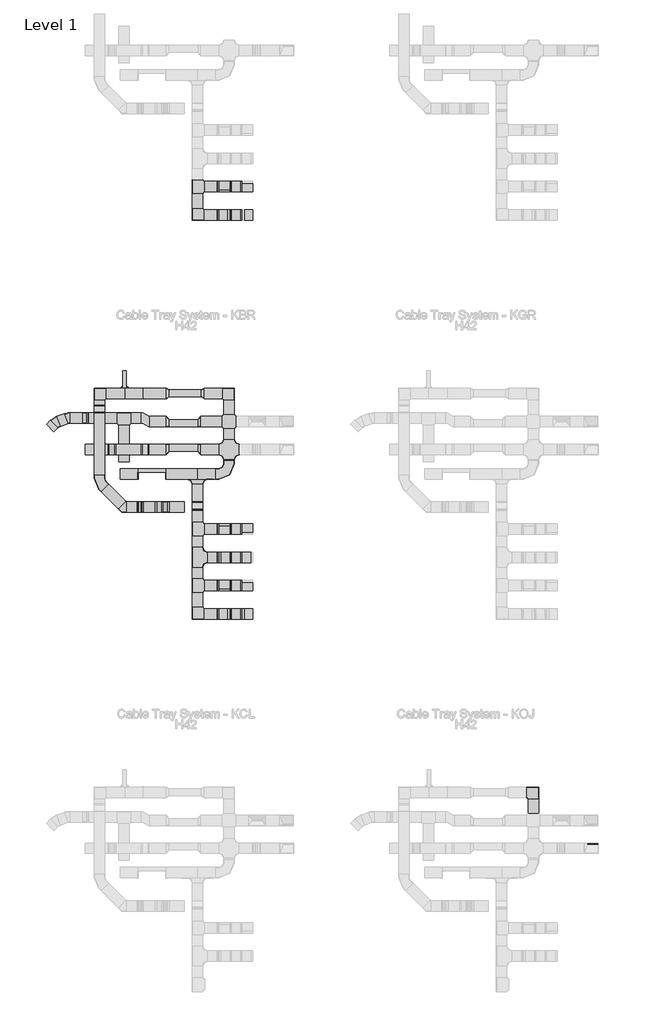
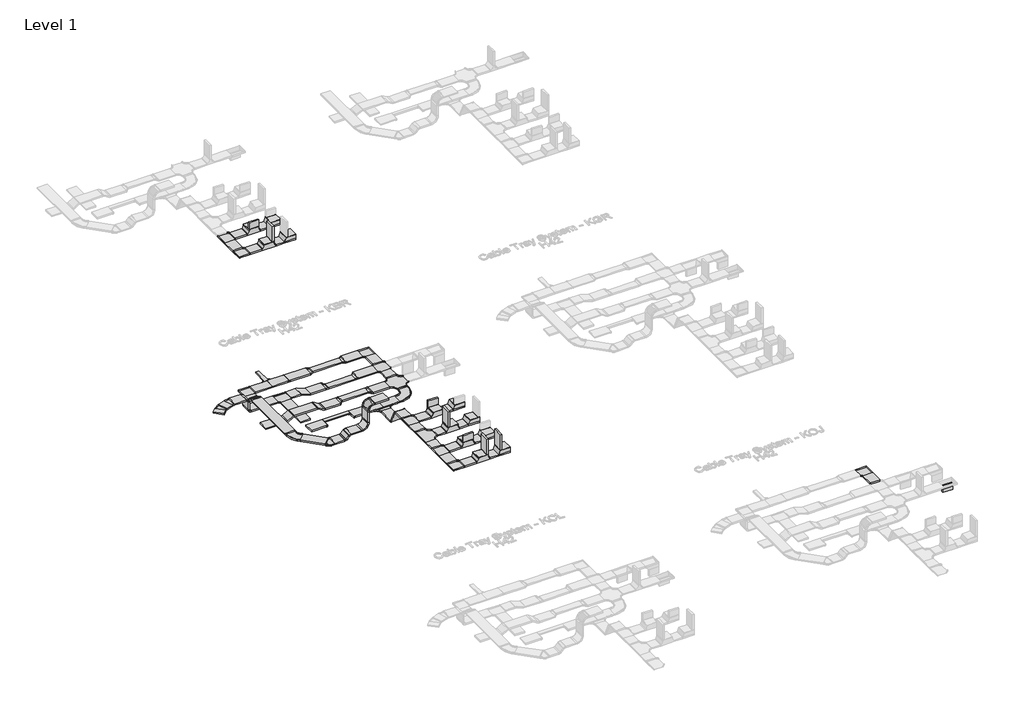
# One storey, part 4 of 106: 64 cable carrier segments, 53 cable carrier fittings.
"""IFC4 building model written with IfcOpenShell, lengths in millimetres."""

from ifc_helpers import new_model, si_unit, frame, origin, place, context, project, spatial, polyline, outline, extrude, transform, mapped, element, save
from components import cable_carrier_fitting_e5c8e40d, cable_carrier_fitting_89415aa4, cable_carrier_fitting_efa56db2, cable_carrier_fitting_91cb0ece, cable_carrier_fitting_fd90c8b5, cable_carrier_fitting_9cc64f74, cable_carrier_fitting_881c8fdb, cable_carrier_fitting_302010ec, cable_carrier_fitting_bee8c25e, cable_carrier_fitting_2b67af39, cable_carrier_fitting_af289c29, cable_carrier_fitting_3ff81d9b, cable_carrier_fitting_7d5806c9, cable_carrier_fitting_0ce080ce, cable_carrier_fitting_1724e2f5, cable_carrier_fitting_0e05e12f, cable_carrier_fitting_aa4403b1, cable_carrier_fitting_df0feb0d, cable_carrier_fitting_19ef2403, cable_carrier_fitting_0fee3a18, cable_carrier_fitting_e93d4d17, cable_carrier_fitting_f62230c1, cable_carrier_fitting_68112528, cable_carrier_fitting_3c0e6721, cable_carrier_fitting_94ef316f, cable_carrier_fitting_d4aa8912, cable_carrier_fitting_70c157f5, cable_carrier_fitting_f138ef00, cable_carrier_fitting_b296faec, cable_carrier_fitting_717dd42d, cable_carrier_fitting_55953e98, cable_carrier_fitting_c1d9b0e5, rkj200_h42_1d64d163, rkj200_h42_0f858a6a

model = new_model("IFC4")

# Units and contexts
model_context = context("Model", 3, world=origin())
ifc_project = project(units=[si_unit("LENGTHUNIT", "METRE", prefix="MILLI")], contexts=[model_context])

# Site, building, storey
site = spatial("IfcSite", under=ifc_project)
building = spatial("IfcBuilding", under=site)
storey = spatial("IfcBuildingStorey", under=building, Name="Level 1", Elevation=0.0)

# Cable carrier fittings
placement = place(None, origin())
cable_carrier_fitting_shape = cable_carrier_fitting_e5c8e40d(model_context)
element("IfcCableCarrierFitting", 1, ObjectType="BAKS_SUB_Corner connector : LRJ_H42", at=placement, inside=storey, context=model_context, shape_type="MappedRepresentation", body=[
    mapped(cable_carrier_fitting_shape, transform((-19375.1670538, 58130.8714214, -21.0), x_axis=(-1.0, 0.0, 0.0), y_axis=(0.0, -1.0, 0.0), z_axis=(0.0, 0.0, 1.0))),
])
element("IfcCableCarrierFitting", 2, ObjectType="BAKS_SUB_Corner connector : LRJ_H42", at=placement, inside=storey, context=model_context, shape_type="MappedRepresentation", body=[
    mapped(cable_carrier_fitting_shape, transform((-19275.1670538, 58130.8714214, -21.0), x_axis=(0.0, 1.0, 0.0), y_axis=(-1.0, 0.0, 0.0), z_axis=(0.0, 0.0, 1.0))),
])
cable_carrier_fitting_2_shape = cable_carrier_fitting_89415aa4(model_context)
element("IfcCableCarrierFitting", 3, ObjectType="BAKS_Horizontal bend : KKBL/KKMBL_H42", at=placement, inside=storey, context=model_context, shape_type="MappedRepresentation", body=[
    mapped(cable_carrier_fitting_2_shape, transform((-19343.6670538, 54731.3714214, 100.0), x_axis=(0.7071067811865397, -0.7071067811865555, 0.0), y_axis=(0.7071067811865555, 0.7071067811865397, 0.0), z_axis=(0.0, 0.0, 1.0))),
])
cable_carrier_fitting_3_shape = cable_carrier_fitting_efa56db2(model_context)
element("IfcCableCarrierFitting", 4, ObjectType="BAKS_Horizontal bypass : OPZNJ_H42", at=placement, inside=storey, context=model_context, shape_type="MappedRepresentation", body=[
    mapped(cable_carrier_fitting_3_shape, transform((-18722.1670538, 57180.8714214, 0.0), x_axis=(-1.0, 0.0, 0.0), y_axis=(0.0, 1.0, 0.0), z_axis=(0.0, 0.0, -1.0))),
])
cable_carrier_fitting_4_shape = cable_carrier_fitting_91cb0ece(model_context)
element("IfcCableCarrierFitting", 5, ObjectType="BAKS_Horizontal cross over : CZKL_H42", at=placement, inside=storey, context=model_context, shape_type="MappedRepresentation", body=[
    mapped(cable_carrier_fitting_4_shape, transform((-16343.1670538, 57180.8714214, 0.0), x_axis=(0.0, -1.0, 0.0), y_axis=(1.0, 0.0, 0.0), z_axis=(0.0, 0.0, 1.0))),
])
cable_carrier_fitting_5_shape = cable_carrier_fitting_fd90c8b5(model_context)
element("IfcCableCarrierFitting", 6, ObjectType="BAKS_Horizontal tee radius : TKPJ_H42", at=placement, inside=storey, context=model_context, shape_type="MappedRepresentation", body=[
    mapped(cable_carrier_fitting_5_shape, transform((-17246.1670538, 53296.5802898, 432.5277378), x_axis=(0.0, 1.0, 0.0), y_axis=(-1.0, 0.0, 0.0), z_axis=(0.0, 0.0, 1.0))),
])
cable_carrier_fitting_6_shape = cable_carrier_fitting_9cc64f74(model_context)
element("IfcCableCarrierFitting", 7, ObjectType="BAKS_Horizontal tee : TKL_H42", at=placement, inside=storey, context=model_context, shape_type="MappedRepresentation", body=[
    mapped(cable_carrier_fitting_6_shape, transform((-19343.6670538, 57280.8714214, 0.0), x_axis=(1.0, 0.0, 0.0), y_axis=(0.0, 1.0, 0.0), z_axis=(0.0, 0.0, 1.0))),
])
element("IfcCableCarrierFitting", 8, ObjectType="BAKS_Horizontal tee : TKL_H42", at=placement, inside=storey, context=model_context, shape_type="MappedRepresentation", body=[
    mapped(cable_carrier_fitting_6_shape, transform((-17246.1670538, 52489.2974728, 432.5277378), x_axis=(0.0, 1.0, 0.0), y_axis=(-1.0, 0.0, 0.0), z_axis=(0.0, 0.0, 1.0))),
])
element("IfcCableCarrierFitting", 9, ObjectType="BAKS_Horizontal tee : TKL_H42", at=placement, inside=storey, context=model_context, shape_type="MappedRepresentation", body=[
    mapped(cable_carrier_fitting_6_shape, transform((-17246.1670538, 54103.8631068, 432.5277378), x_axis=(0.0, 1.0, 0.0), y_axis=(-1.0, 0.0, 0.0), z_axis=(0.0, 0.0, 1.0))),
])
element("IfcCableCarrierFitting", 10, ObjectType="BAKS_Horizontal tee : TKL_H42", at=placement, inside=storey, context=model_context, shape_type="MappedRepresentation", body=[
    mapped(cable_carrier_fitting_6_shape, transform((-17246.1670538, 63889.2974728, 432.5277378), x_axis=(0.0, 1.0, 0.0), y_axis=(-1.0, 0.0, 0.0), z_axis=(0.0, 0.0, 1.0))),
])
cable_carrier_fitting_7_shape = cable_carrier_fitting_881c8fdb(model_context)
element("IfcCableCarrierFitting", 11, ObjectType="BAKS_Universal elbow : KRUMJ_H42", at=placement, inside=storey, context=model_context, shape_type="MappedRepresentation", body=[
    mapped(cable_carrier_fitting_7_shape, transform((-16006.1670538, 53296.5802898, 432.5277378), x_axis=(1.0, 0.0, 0.0), y_axis=(0.0, 1.0, 0.0), z_axis=(0.0, 0.0, 1.0))),
])
cable_carrier_fitting_8_shape = cable_carrier_fitting_302010ec(model_context)
element("IfcCableCarrierFitting", 12, ObjectType="BAKS_Universal tee : TRUNJ_H42", at=placement, inside=storey, context=model_context, shape_type="MappedRepresentation", body=[
    mapped(cable_carrier_fitting_8_shape, transform((-16473.5199976, 53296.5802898, 432.5277378), x_axis=(-1.0, 0.0, 0.0), y_axis=(0.0, -1.0, 0.0), z_axis=(0.0, 0.0, 1.0))),
])
cable_carrier_fitting_9_shape = cable_carrier_fitting_bee8c25e(model_context)
element("IfcCableCarrierFitting", 13, ObjectType="BAKS_Vertical bend adjustable : LLL/LLJ_H42", at=placement, inside=storey, context=model_context, shape_type="MappedRepresentation", body=[
    mapped(cable_carrier_fitting_9_shape, transform((-18246.2659001, 54731.3714214, 237.4011537), x_axis=(1.0, 0.0, 0.0), y_axis=(0.0, 0.0, 1.0), z_axis=(0.0, -1.0, 0.0))),
])
element("IfcCableCarrierFitting", 14, ObjectType="BAKS_Vertical bend adjustable : LLL/LLJ_H42", at=placement, inside=storey, context=model_context, shape_type="MappedRepresentation", body=[
    mapped(cable_carrier_fitting_9_shape, transform((-18246.2659001, 54731.3714214, 977.4011537), x_axis=(0.0, 0.0, 1.0), y_axis=(1.0, 0.0, 0.0), z_axis=(0.0, 1.0, 0.0))),
])
cable_carrier_fitting_10_shape = cable_carrier_fitting_2b67af39(model_context)
element("IfcCableCarrierFitting", 15, ObjectType="BAKS_Vertical bypass : OPNNJ_H42", at=placement, inside=storey, context=model_context, shape_type="MappedRepresentation", body=[
    mapped(cable_carrier_fitting_10_shape, transform((-19686.6670538, 56380.8714214, 100.0), x_axis=(-1.0, 0.0, 0.0), y_axis=(0.0, -1.0, 0.0), z_axis=(0.0, 0.0, 1.0))),
])
cable_carrier_fitting_11_shape = cable_carrier_fitting_af289c29(model_context)
element("IfcCableCarrierFitting", 16, ObjectType="BAKS_Articulated_connector : LGJ_H42", at=placement, inside=storey, context=model_context, shape_type="MappedRepresentation", body=[
    mapped(cable_carrier_fitting_11_shape, transform((-17246.1670538, 54858.7056523, 0.0), x_axis=(0.0, -1.0, 0.0), y_axis=(0.0, 0.0, 1.0), z_axis=(-1.0, 0.0, 0.0))),
])
element("IfcCableCarrierFitting", 17, ObjectType="BAKS_Articulated_connector : LGJ_H42", at=placement, inside=storey, context=model_context, shape_type="MappedRepresentation", body=[
    mapped(cable_carrier_fitting_11_shape, transform((-17246.1670538, 54657.0146558, 432.5277378), x_axis=(0.0, -0.42261826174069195, 0.9063077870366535), y_axis=(0.0, -0.9063077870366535, -0.42261826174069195), z_axis=(1.0, 0.0, 0.0))),
])
cable_carrier_fitting_12_shape = cable_carrier_fitting_3ff81d9b(model_context)
element("IfcCableCarrierFitting", 18, ObjectType="BAKS_Universal tee : TRUNJ_H42", at=placement, inside=storey, context=model_context, shape_type="MappedRepresentation", body=[
    mapped(cable_carrier_fitting_12_shape, transform((-16473.5199976, 54103.8631068, 432.5277378), x_axis=(-1.0, 0.0, 0.0), y_axis=(0.0, -1.0, 0.0), z_axis=(0.0, 0.0, 1.0))),
])
cable_carrier_fitting_13_shape = cable_carrier_fitting_7d5806c9(model_context)
element("IfcCableCarrierFitting", 19, ObjectType="BAKS_Universal tee : TRUNJ_H42", at=placement, inside=storey, context=model_context, shape_type="MappedRepresentation", body=[
    mapped(cable_carrier_fitting_13_shape, transform((-16473.5199976, 52489.2974728, 432.5277378), x_axis=(-1.0, 0.0, 0.0), y_axis=(0.0, -1.0, 0.0), z_axis=(0.0, 0.0, 1.0))),
])
element("IfcCableCarrierFitting", 20, ObjectType="BAKS_Universal tee : TRUNJ_H42", at=placement, inside=storey, context=model_context, shape_type="MappedRepresentation", body=[
    mapped(cable_carrier_fitting_13_shape, transform((-16473.5199976, 63889.2974728, 432.5277378), x_axis=(-1.0, 0.0, 0.0), y_axis=(0.0, -1.0, 0.0), z_axis=(0.0, 0.0, 1.0))),
])
cable_carrier_fitting_14_shape = cable_carrier_fitting_0ce080ce(model_context)
element("IfcCableCarrierFitting", 21, ObjectType="BAKS_Universal tee : TRUNJ_H42", at=placement, inside=storey, context=model_context, shape_type="MappedRepresentation", body=[
    mapped(cable_carrier_fitting_14_shape, transform((-16473.5199976, 51682.0146558, 432.5277378), x_axis=(-1.0, 0.0, 0.0), y_axis=(0.0, -1.0, 0.0), z_axis=(0.0, 0.0, 1.0))),
])
element("IfcCableCarrierFitting", 22, ObjectType="BAKS_Universal tee : TRUNJ_H42", at=placement, inside=storey, context=model_context, shape_type="MappedRepresentation", body=[
    mapped(cable_carrier_fitting_14_shape, transform((-16473.5199976, 63082.0146558, 432.5277378), x_axis=(-1.0, 0.0, 0.0), y_axis=(0.0, -1.0, 0.0), z_axis=(0.0, 0.0, 1.0))),
])
cable_carrier_fitting_15_shape = cable_carrier_fitting_1724e2f5(model_context)
element("IfcCableCarrierFitting", 23, ObjectType="BAKS_Vertical bypass : OPNNJ_H42", at=placement, inside=storey, context=model_context, shape_type="MappedRepresentation", body=[
    mapped(cable_carrier_fitting_15_shape, transform((-18743.6670538, 56380.8714214, 0.0), x_axis=(-1.0, 0.0, 0.0), y_axis=(0.0, -1.0, 0.0), z_axis=(0.0, 0.0, 1.0))),
])
element("IfcCableCarrierFitting", 24, ObjectType="BAKS_Vertical bypass : OPNNJ_H42", at=placement, inside=storey, context=model_context, shape_type="MappedRepresentation", body=[
    mapped(cable_carrier_fitting_15_shape, transform((-20043.1670538, 57539.3714214, 0.0), x_axis=(0.0, -1.0, 0.0), y_axis=(1.0, 0.0, 0.0), z_axis=(0.0, 0.0, 1.0))),
])
cable_carrier_fitting_16_shape = cable_carrier_fitting_0e05e12f(model_context)
element("IfcCableCarrierFitting", 25, ObjectType="BAKS_Universal elbow : KRUMJ_H42", at=placement, inside=storey, context=model_context, shape_type="MappedRepresentation", body=[
    mapped(cable_carrier_fitting_16_shape, transform((-16006.1670538, 54103.8631068, 432.5277378), x_axis=(1.0, 0.0, 0.0), y_axis=(0.0, 1.0, 0.0), z_axis=(0.0, 0.0, 1.0))),
])
cable_carrier_fitting_17_shape = cable_carrier_fitting_aa4403b1(model_context)
element("IfcCableCarrierFitting", 26, ObjectType="BAKS_Universal elbow : KRUMJ_H42", at=placement, inside=storey, context=model_context, shape_type="MappedRepresentation", body=[
    mapped(cable_carrier_fitting_17_shape, transform((-16006.1670538, 52489.2974728, 432.5277378), x_axis=(1.0, 0.0, 0.0), y_axis=(0.0, 1.0, 0.0), z_axis=(0.0, 0.0, 1.0))),
])
element("IfcCableCarrierFitting", 27, ObjectType="BAKS_Universal elbow : KRUMJ_H42", at=placement, inside=storey, context=model_context, shape_type="MappedRepresentation", body=[
    mapped(cable_carrier_fitting_17_shape, transform((-16006.1670538, 63889.2974728, 432.5277378), x_axis=(1.0, 0.0, 0.0), y_axis=(0.0, 1.0, 0.0), z_axis=(0.0, 0.0, 1.0))),
])
cable_carrier_fitting_18_shape = cable_carrier_fitting_df0feb0d(model_context)
element("IfcCableCarrierFitting", 28, ObjectType="BAKS_Universal elbow : KRUMJ_H42", at=placement, inside=storey, context=model_context, shape_type="MappedRepresentation", body=[
    mapped(cable_carrier_fitting_18_shape, transform((-16006.1670538, 51682.0146558, 432.5277378), x_axis=(1.0, 0.0, 0.0), y_axis=(0.0, 1.0, 0.0), z_axis=(0.0, 0.0, 1.0))),
])
element("IfcCableCarrierFitting", 29, ObjectType="BAKS_Universal elbow : KRUMJ_H42", at=placement, inside=storey, context=model_context, shape_type="MappedRepresentation", body=[
    mapped(cable_carrier_fitting_18_shape, transform((-16006.1670538, 63082.0146558, 432.5277378), x_axis=(1.0, 0.0, 0.0), y_axis=(0.0, 1.0, 0.0), z_axis=(0.0, 0.0, 1.0))),
])
cable_carrier_fitting_19_shape = cable_carrier_fitting_19ef2403(model_context)
element("IfcCableCarrierFitting", 30, ObjectType="BAKS_Adjustable bend : KKRPJ_H42", at=placement, inside=storey, context=model_context, shape_type="MappedRepresentation", body=[
    mapped(cable_carrier_fitting_19_shape, transform((-21281.9563973, 57157.7441698, 400.0), x_axis=(-0.9396926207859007, -0.34202014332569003, 0.0), y_axis=(0.34202014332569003, -0.9396926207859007, 0.0), z_axis=(0.0, 0.0, 1.0))),
])
cable_carrier_fitting_20_shape = cable_carrier_fitting_0fee3a18(model_context)
element("IfcCableCarrierFitting", 31, ObjectType="BAKS_Adjustable bend : KKRPJ_H42", at=placement, inside=storey, context=model_context, shape_type="MappedRepresentation", body=[
    mapped(cable_carrier_fitting_20_shape, transform((-20943.6670538, 57280.8714214, 400.0), x_axis=(-1.0, 0.0, 0.0), y_axis=(0.0, -1.0, 0.0), z_axis=(0.0, 0.0, 1.0))),
])
cable_carrier_fitting_21_shape = cable_carrier_fitting_e93d4d17(model_context)
element("IfcCableCarrierFitting", 32, ObjectType="BAKS_Plate connector : LPMU_H42", at=placement, inside=storey, context=model_context, shape_type="MappedRepresentation", body=[
    mapped(cable_carrier_fitting_21_shape, transform((-18803.1670538, 57980.8714214, 0.0), x_axis=(1.0, 0.0, 0.0), y_axis=(0.0, 1.0, 0.0), z_axis=(0.0, 0.0, 1.0))),
])
cable_carrier_fitting_22_shape = cable_carrier_fitting_f62230c1(model_context)
element("IfcCableCarrierFitting", 33, ObjectType="BAKS_Vertical bend LU : LLJ_H42", at=placement, inside=storey, context=model_context, shape_type="MappedRepresentation", body=[
    mapped(cable_carrier_fitting_22_shape, transform((-20443.6670538, 57280.8714214, 0.0), x_axis=(-1.0, 0.0, 0.0), y_axis=(0.0, 0.0, 1.0), z_axis=(0.0, 1.0, 0.0))),
])
element("IfcCableCarrierFitting", 34, ObjectType="BAKS_Vertical bend LU : LLJ_H42", at=placement, inside=storey, context=model_context, shape_type="MappedRepresentation", body=[
    mapped(cable_carrier_fitting_22_shape, transform((-20443.6670538, 57280.8714214, 400.0), x_axis=(0.0, 0.0, 1.0), y_axis=(-1.0, 0.0, 0.0), z_axis=(0.0, -1.0, 0.0))),
])
cable_carrier_fitting_23_shape = cable_carrier_fitting_68112528(model_context)
element("IfcCableCarrierFitting", 35, ObjectType="BAKS_Vertical bend LU : LLJ_H42", at=placement, inside=storey, context=model_context, shape_type="MappedRepresentation", body=[
    mapped(cable_carrier_fitting_23_shape, transform((-18943.6670538, 54731.3714214, 100.0), x_axis=(1.0, 0.0, 0.0), y_axis=(0.0, 0.0, 1.0), z_axis=(0.0, -1.0, 0.0))),
])
element("IfcCableCarrierFitting", 36, ObjectType="BAKS_Vertical bend LU : LLJ_H42", at=placement, inside=storey, context=model_context, shape_type="MappedRepresentation", body=[
    mapped(cable_carrier_fitting_23_shape, transform((-18806.2659001, 54731.3714214, 237.4011537), x_axis=(0.7071067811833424, 0.0, 0.7071067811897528), y_axis=(0.7071067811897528, 0.0, -0.7071067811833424), z_axis=(0.0, 1.0, 0.0))),
])
cable_carrier_fitting_24_shape = cable_carrier_fitting_3c0e6721(model_context)
element("IfcCableCarrierFitting", 37, ObjectType="BAKS_Horizontal cross over radius : CZKPJ_H42", at=placement, inside=storey, context=model_context, shape_type="MappedRepresentation", body=[
    mapped(cable_carrier_fitting_24_shape, transform((-16343.1670538, 56380.8714214, 0.0), x_axis=(0.0, -1.0, 0.0), y_axis=(1.0, 0.0, 0.0), z_axis=(0.0, 0.0, 1.0))),
])
cable_carrier_fitting_25_shape = cable_carrier_fitting_94ef316f(model_context)
element("IfcCableCarrierFitting", 38, ObjectType="BAKS_Reducer : RK(S/L/P)L_H42", at=placement, inside=storey, context=model_context, shape_type="MappedRepresentation", body=[
    mapped(cable_carrier_fitting_25_shape, transform((-18143.1670538, 57980.8714214, 0.0), x_axis=(1.0, 0.0, 0.0), y_axis=(0.0, 1.0, 0.0), z_axis=(0.0, 0.0, 1.0))),
])
cable_carrier_fitting_26_shape = cable_carrier_fitting_d4aa8912(model_context)
element("IfcCableCarrierFitting", 39, ObjectType="BAKS_Reducer : RK(S/L/P)L_H42", at=placement, inside=storey, context=model_context, shape_type="MappedRepresentation", body=[
    mapped(cable_carrier_fitting_26_shape, transform((-17143.1670538, 57980.8714214, 0.0), x_axis=(1.0, 0.0, 0.0), y_axis=(0.0, 1.0, 0.0), z_axis=(0.0, 0.0, 1.0))),
])
cable_carrier_fitting_27_shape = cable_carrier_fitting_70c157f5(model_context)
element("IfcCableCarrierFitting", 40, ObjectType="BAKS_Reducer : RK(S/L/P)L_H42", at=placement, inside=storey, context=model_context, shape_type="MappedRepresentation", body=[
    mapped(cable_carrier_fitting_27_shape, transform((-18143.1670538, 57180.8714214, 0.0), x_axis=(1.0, 0.0, 0.0), y_axis=(0.0, 1.0, 0.0), z_axis=(0.0, 0.0, 1.0))),
])
element("IfcCableCarrierFitting", 41, ObjectType="BAKS_Reducer : RK(S/L/P)L_H42", at=placement, inside=storey, context=model_context, shape_type="MappedRepresentation", body=[
    mapped(cable_carrier_fitting_27_shape, transform((-17143.1670538, 56380.8714214, 0.0), x_axis=(-1.0, 0.0, 0.0), y_axis=(0.0, -1.0, 0.0), z_axis=(0.0, 0.0, 1.0))),
])
cable_carrier_fitting_28_shape = cable_carrier_fitting_f138ef00(model_context)
element("IfcCableCarrierFitting", 42, ObjectType="BAKS_Reducer : RK(S/L/P)L_H42", at=placement, inside=storey, context=model_context, shape_type="MappedRepresentation", body=[
    mapped(cable_carrier_fitting_28_shape, transform((-17143.1670538, 57180.8714214, 0.0), x_axis=(-1.0, 0.0, 0.0), y_axis=(0.0, -1.0, 0.0), z_axis=(0.0, 0.0, 1.0))),
])
element("IfcCableCarrierFitting", 43, ObjectType="BAKS_Reducer : RK(S/L/P)L_H42", at=placement, inside=storey, context=model_context, shape_type="MappedRepresentation", body=[
    mapped(cable_carrier_fitting_28_shape, transform((-18143.1670538, 56380.8714214, 0.0), x_axis=(1.0, 0.0, 0.0), y_axis=(0.0, 1.0, 0.0), z_axis=(0.0, 0.0, 1.0))),
])
cable_carrier_fitting_29_shape = cable_carrier_fitting_b296faec(model_context)
element("IfcCableCarrierFitting", 44, ObjectType="BAKS_Horizontal addon tee : TKDJ_H42", at=placement, inside=storey, context=model_context, shape_type="MappedRepresentation", body=[
    mapped(cable_carrier_fitting_29_shape, transform((-17246.1670538, 55680.8714214, 0.0), x_axis=(1.0, 0.0, 0.0), y_axis=(0.0, 1.0, 0.0), z_axis=(0.0, 0.0, 1.0))),
])
cable_carrier_fitting_30_shape = cable_carrier_fitting_717dd42d(model_context)
element("IfcCableCarrierFitting", 45, ObjectType="BAKS_Horizontal bend : KKBL/KKMBL_H42", at=placement, inside=storey, context=model_context, shape_type="MappedRepresentation", body=[
    mapped(cable_carrier_fitting_30_shape, transform((-16343.1670538, 57980.8714214, 0.0), x_axis=(0.0, 1.0, 0.0), y_axis=(-1.0, 0.0, 0.0), z_axis=(0.0, 0.0, 1.0))),
])
element("IfcCableCarrierFitting", 46, ObjectType="BAKS_Horizontal bend : KKBL/KKMBL_H42", at=placement, inside=storey, context=model_context, shape_type="MappedRepresentation", body=[
    mapped(cable_carrier_fitting_30_shape, transform((-7643.1670538, 46580.8714214, 0.0), x_axis=(0.0, 1.0, 0.0), y_axis=(-1.0, 0.0, 0.0), z_axis=(0.0, 0.0, 1.0))),
])
element("IfcCableCarrierFitting", 47, ObjectType="BAKS_Horizontal bend : KKBL/KKMBL_H42", at=placement, inside=storey, context=model_context, shape_type="MappedRepresentation", body=[
    mapped(cable_carrier_fitting_30_shape, transform((-20043.1670538, 57980.8714214, 0.0), x_axis=(-1.0, 0.0, 0.0), y_axis=(0.0, -1.0, 0.0), z_axis=(0.0, 0.0, 1.0))),
])
element("IfcCableCarrierFitting", 48, ObjectType="BAKS_Horizontal bend : KKBL/KKMBL_H42", at=placement, inside=storey, context=model_context, shape_type="MappedRepresentation", body=[
    mapped(cable_carrier_fitting_30_shape, transform((-17246.1670538, 51682.0146558, 432.5277378), x_axis=(0.0, -1.0, 0.0), y_axis=(1.0, 0.0, 0.0), z_axis=(0.0, 0.0, 1.0))),
])
element("IfcCableCarrierFitting", 49, ObjectType="BAKS_Horizontal bend : KKBL/KKMBL_H42", at=placement, inside=storey, context=model_context, shape_type="MappedRepresentation", body=[
    mapped(cable_carrier_fitting_30_shape, transform((-17246.1670538, 63082.0146558, 432.5277378), x_axis=(0.0, -1.0, 0.0), y_axis=(1.0, 0.0, 0.0), z_axis=(0.0, 0.0, 1.0))),
])
cable_carrier_fitting_31_shape = cable_carrier_fitting_55953e98(model_context)
element("IfcCableCarrierFitting", 50, ObjectType="BAKS_Horizontal bend radius : KKPJ/KKMPJ_H42", at=placement, inside=storey, context=model_context, shape_type="MappedRepresentation", body=[
    mapped(cable_carrier_fitting_31_shape, transform((-20043.1670538, 55430.8714214, 100.0), x_axis=(0.0, -1.0, 0.0), y_axis=(1.0, 0.0, 0.0), z_axis=(0.0, 0.0, 1.0))),
])
cable_carrier_fitting_32_shape = cable_carrier_fitting_c1d9b0e5(model_context)
element("IfcCableCarrierFitting", 51, ObjectType="BAKS_Horizontal bend radius : KKPJ/KKMPJ_H42", at=placement, inside=storey, context=model_context, shape_type="MappedRepresentation", body=[
    mapped(cable_carrier_fitting_32_shape, transform((-16343.1670538, 55680.8714214, 0.0), x_axis=(1.0, 0.0, 0.0), y_axis=(0.0, 1.0, 0.0), z_axis=(0.0, 0.0, 1.0))),
])
rkj200_h42_shape = rkj200_h42_1d64d163(model_context)
element("IfcCableCarrierFitting", 52, ObjectType="BAKS_SUB_Reduction angular : RKJ200_H42", at=placement, inside=storey, context=model_context, shape_type="MappedRepresentation", body=[
    mapped(rkj200_h42_shape, transform((-18943.1670538, 55530.8714214, -21.0), x_axis=(1.0, 0.0, 0.0), y_axis=(0.0, 1.0, 0.0), z_axis=(0.0, 0.0, 1.0))),
])
rkj200_h42_2_shape = rkj200_h42_0f858a6a(model_context)
element("IfcCableCarrierFitting", 53, ObjectType="BAKS_SUB_Reduction angular : RKJ200_H42", at=placement, inside=storey, context=model_context, shape_type="MappedRepresentation", body=[
    mapped(rkj200_h42_2_shape, transform((-18153.1670538, 55530.8714214, -21.0), x_axis=(-1.0, 0.0, 0.0), y_axis=(0.0, -1.0, 0.0), z_axis=(0.0, 0.0, 1.0))),
])

# Cable carrier segments
element("IfcCableCarrierSegment", 54, ObjectType="BAKS - Cable tray H42 (KBR)", at=placement, inside=storey, context=model_context, shape_type="SweptSolid", body=[
    extrude(outline(polyline([(-18802.1670538, 57830.8714214), (-18802.1670538, 58130.8714214), (-18143.1670538, 58130.8714214), (-18143.1670538, 57830.8714214), (-18802.1670538, 57830.8714214)])), frame((0.0, 0.0, -21.0), z_axis=(0.0, 0.0, 1.0), x_axis=(1.0, 0.0, 0.0)), (0.0, 0.0, 1.0), 42.0),
])
element("IfcCableCarrierSegment", 55, ObjectType="BAKS - Cable tray H42 (KBR)", at=placement, inside=storey, context=model_context, shape_type="SweptSolid", body=[
    extrude(outline(polyline([(-18048.1670538, 57880.8714214), (-18048.1670538, 58080.8714214), (-17143.1670538, 58080.8714214), (-17143.1670538, 57880.8714214), (-18048.1670538, 57880.8714214)])), frame((0.0, 0.0, -21.0), z_axis=(0.0, 0.0, 1.0), x_axis=(1.0, 0.0, 0.0)), (0.0, 0.0, 1.0), 42.0),
])
element("IfcCableCarrierSegment", 56, ObjectType="BAKS - Cable tray H42 (KBR)", at=placement, inside=storey, context=model_context, shape_type="SweptSolid", body=[
    extrude(outline(polyline([(-17048.1670538, 57830.8714214), (-17048.1670538, 58130.8714214), (-16539.1670538, 58130.8714214), (-16539.1670538, 57830.8714214), (-17048.1670538, 57830.8714214)])), frame((0.0, 0.0, -21.0), z_axis=(0.0, 0.0, 1.0), x_axis=(1.0, 0.0, 0.0)), (0.0, 0.0, 1.0), 42.0),
])
element("IfcCableCarrierSegment", 57, ObjectType="BAKS - Cable tray H42 (KBR)", at=placement, inside=storey, context=model_context, shape_type="SweptSolid", body=[
    extrude(outline(polyline([(-16493.1670538, 57784.8714214), (-16193.1670538, 57784.8714214), (-16193.1670538, 57385.8714214), (-16493.1670538, 57385.8714214), (-16493.1670538, 57784.8714214)])), frame((0.0, 0.0, -21.0), z_axis=(0.0, 0.0, 1.0), x_axis=(1.0, 0.0, 0.0)), (0.0, 0.0, 1.0), 42.0),
])
element("IfcCableCarrierSegment", 58, ObjectType="BAKS - Cable tray H42 (KBR)", at=placement, inside=storey, context=model_context, shape_type="SweptSolid", body=[
    extrude(outline(polyline([(-16493.1670538, 56975.8714214), (-16193.1670538, 56975.8714214), (-16193.1670538, 56671.8714214), (-16493.1670538, 56671.8714214), (-16493.1670538, 56975.8714214)])), frame((0.0, 0.0, -21.0), z_axis=(0.0, 0.0, 1.0), x_axis=(1.0, 0.0, 0.0)), (0.0, 0.0, 1.0), 42.0),
])
element("IfcCableCarrierSegment", 59, ObjectType="BAKS - Cable tray H42 (KBR)", at=placement, inside=storey, context=model_context, shape_type="SweptSolid", body=[
    extrude(outline(polyline([(-17238.1670538, 57230.8714214), (-17238.1670538, 57030.8714214), (-18048.1670538, 57030.8714214), (-18048.1670538, 57230.8714214), (-17238.1670538, 57230.8714214)])), frame((0.0, 0.0, -21.0), z_axis=(0.0, 0.0, 1.0), x_axis=(1.0, 0.0, 0.0)), (0.0, 0.0, 1.0), 42.0),
])
element("IfcCableCarrierSegment", 60, ObjectType="BAKS - Cable tray H42 (KBR)", at=placement, inside=storey, context=model_context, shape_type="SweptSolid", body=[
    extrude(outline(polyline([(-18600.6670538, 57030.8714214), (-18600.6670538, 57330.8714214), (-18143.1670538, 57330.8714214), (-18143.1670538, 57030.8714214), (-18600.6670538, 57030.8714214)])), frame((0.0, 0.0, -21.0), z_axis=(0.0, 0.0, 1.0), x_axis=(1.0, 0.0, 0.0)), (0.0, 0.0, 1.0), 42.0),
])
element("IfcCableCarrierSegment", 61, ObjectType="BAKS - Cable tray H42 (KBR)", at=placement, inside=storey, context=model_context, shape_type="SweptSolid", body=[
    extrude(outline(polyline([(-16548.1670538, 57330.8714214), (-16548.1670538, 57030.8714214), (-17143.1670538, 57030.8714214), (-17143.1670538, 57330.8714214), (-16548.1670538, 57330.8714214)])), frame((0.0, 0.0, -21.0), z_axis=(0.0, 0.0, 1.0), x_axis=(1.0, 0.0, 0.0)), (0.0, 0.0, 1.0), 42.0),
])
element("IfcCableCarrierSegment", 62, ObjectType="BAKS - Cable tray H42 (KBR)", at=placement, inside=storey, context=model_context, shape_type="SweptSolid", body=[
    extrude(outline(polyline([(-17238.1670538, 56530.8714214), (-17238.1670538, 56330.8714214), (-18048.1670538, 56330.8714214), (-18048.1670538, 56530.8714214), (-17238.1670538, 56530.8714214)])), frame((0.0, 0.0, -21.0), z_axis=(0.0, 0.0, 1.0), x_axis=(1.0, 0.0, 0.0)), (0.0, 0.0, 1.0), 42.0),
])
element("IfcCableCarrierSegment", 63, ObjectType="BAKS - Cable tray H42 (KBR)", at=placement, inside=storey, context=model_context, shape_type="SweptSolid", body=[
    extrude(outline(polyline([(-18622.1670538, 56230.8714214), (-18622.1670538, 56530.8714214), (-18143.1670538, 56530.8714214), (-18143.1670538, 56230.8714214), (-18622.1670538, 56230.8714214)])), frame((0.0, 0.0, -21.0), z_axis=(0.0, 0.0, 1.0), x_axis=(1.0, 0.0, 0.0)), (0.0, 0.0, 1.0), 42.0),
])
element("IfcCableCarrierSegment", 64, ObjectType="BAKS - Cable tray H42 (KBR)", at=placement, inside=storey, context=model_context, shape_type="SweptSolid", body=[
    extrude(outline(polyline([(-16634.1670538, 56530.8714214), (-16634.1670538, 56230.8714214), (-17143.1670538, 56230.8714214), (-17143.1670538, 56530.8714214), (-16634.1670538, 56530.8714214)])), frame((0.0, 0.0, -21.0), z_axis=(0.0, 0.0, 1.0), x_axis=(1.0, 0.0, 0.0)), (0.0, 0.0, 1.0), 42.0),
])
element("IfcCableCarrierSegment", 65, ObjectType="BAKS - Cable tray H42 (KBR)", at=placement, inside=storey, context=model_context, shape_type="SweptSolid", body=[
    extrude(outline(polyline([(-19548.6670538, 57430.8714214), (-19548.6670538, 57130.8714214), (-20367.6670538, 57130.8714214), (-20367.6670538, 57430.8714214), (-19548.6670538, 57430.8714214)])), frame((0.0, 0.0, -21.0), z_axis=(0.0, 0.0, 1.0), x_axis=(1.0, 0.0, 0.0)), (0.0, 0.0, 1.0), 42.0),
])
element("IfcCableCarrierSegment", 66, ObjectType="BAKS - Cable tray H42 (KBR)", at=placement, inside=storey, context=model_context, shape_type="SweptSolid", body=[
    extrude(outline(polyline([(-18865.1670538, 56530.8714214), (-18865.1670538, 56230.8714214), (-19565.1670538, 56230.8714214), (-19565.1670538, 56530.8714214), (-18865.1670538, 56530.8714214)])), frame((0.0, 0.0, 79.0), z_axis=(0.0, 0.0, 1.0), x_axis=(1.0, 0.0, 0.0)), (0.0, 0.0, 1.0), 42.0),
])
element("IfcCableCarrierSegment", 67, ObjectType="BAKS - Cable tray H42 (KBR)", at=placement, inside=storey, context=model_context, shape_type="SweptSolid", body=[
    extrude(outline(polyline([(-20193.1670538, 57784.8714214), (-19893.1670538, 57784.8714214), (-19893.1670538, 57660.8714214), (-20193.1670538, 57660.8714214), (-20193.1670538, 57784.8714214)])), frame((0.0, 0.0, -21.0), z_axis=(0.0, 0.0, 1.0), x_axis=(1.0, 0.0, 0.0)), (0.0, 0.0, 1.0), 42.0),
])
element("IfcCableCarrierSegment", 68, ObjectType="BAKS - Cable tray H42 (KBR)", at=placement, inside=storey, context=model_context, shape_type="SweptSolid", body=[
    extrude(outline(polyline([(-19493.6670538, 57075.8714214), (-19193.6670538, 57075.8714214), (-19193.6670538, 56030.8714214), (-19493.6670538, 56030.8714214), (-19493.6670538, 57075.8714214)])), frame((0.0, 0.0, -21.0), z_axis=(0.0, 0.0, 1.0), x_axis=(1.0, 0.0, 0.0)), (0.0, 0.0, 1.0), 42.0),
])
element("IfcCableCarrierSegment", 69, ObjectType="BAKS - Cable tray H42 (KBR)", at=placement, inside=storey, context=model_context, shape_type="SweptSolid", body=[
    extrude(outline(polyline([(-18843.6670538, 57430.8714214), (-18843.6670538, 57130.8714214), (-19138.6670538, 57130.8714214), (-19138.6670538, 57430.8714214), (-18843.6670538, 57430.8714214)])), frame((0.0, 0.0, -21.0), z_axis=(0.0, 0.0, 1.0), x_axis=(1.0, 0.0, 0.0)), (0.0, 0.0, 1.0), 42.0),
])
element("IfcCableCarrierSegment", 70, ObjectType="BAKS - Cable tray H42 (KBR)", at=placement, inside=storey, context=model_context, shape_type="SweptSolid", body=[
    extrude(outline(polyline([(-19808.1670538, 56530.8714214), (-19808.1670538, 56230.8714214), (-20443.6670538, 56230.8714214), (-20443.6670538, 56530.8714214), (-19808.1670538, 56530.8714214)])), frame((0.0, 0.0, -21.0), z_axis=(0.0, 0.0, 1.0), x_axis=(1.0, 0.0, 0.0)), (0.0, 0.0, 1.0), 42.0),
])
element("IfcCableCarrierSegment", 71, ObjectType="BAKS - Cable tray H42 (KBR)", at=placement, inside=storey, context=model_context, shape_type="SweptSolid", body=[
    extrude(outline(polyline([(-20877.5322294, 57130.8714214), (-20877.5322294, 57430.8714214), (-20519.6670538, 57430.8714214), (-20519.6670538, 57130.8714214), (-20877.5322294, 57130.8714214)])), frame((0.0, 0.0, 379.0), z_axis=(0.0, 0.0, 1.0), x_axis=(1.0, 0.0, 0.0)), (0.0, 0.0, 1.0), 42.0),
])
element("IfcCableCarrierSegment", 72, ObjectType="BAKS - Cable tray H42 (KBR)", at=placement, inside=storey, context=model_context, shape_type="SweptSolid", body=[
    extrude(outline(polyline([(-20464.6670538, 57430.8714214), (-20422.6670538, 57430.8714214), (-20422.6670538, 57130.8714214), (-20464.6670538, 57130.8714214), (-20464.6670538, 57430.8714214)])), frame((0.0, 0.0, 76.0), z_axis=(0.0, 0.0, 1.0), x_axis=(1.0, 0.0, 0.0)), (0.0, 0.0, 1.0), 248.0),
])
element("IfcCableCarrierSegment", 73, ObjectType="BAKS - Cable tray H42 (KBR)", at=placement, inside=storey, context=model_context, shape_type="SweptSolid", body=[
    extrude(outline(polyline([(-19893.1670538, 55650.9933545), (-20193.1670538, 55650.9933545), (-20193.1670538, 57417.8714214), (-19893.1670538, 57417.8714214), (-19893.1670538, 55650.9933545)])), frame((0.0, 0.0, 79.0), z_axis=(0.0, 0.0, 1.0), x_axis=(1.0, 0.0, 0.0)), (0.0, 0.0, 1.0), 42.0),
])
element("IfcCableCarrierSegment", 74, ObjectType="BAKS - Cable tray H42 (KBR)", at=placement, inside=storey, context=model_context, shape_type="SweptSolid", body=[
    extrude(outline(polyline([(-19993.5833594, 55169.1556926), (-19781.451325, 55381.287727), (-19295.422321, 54895.258723), (-19507.5543554, 54683.1266887), (-19993.5833594, 55169.1556926)])), frame((0.0, 0.0, 79.0), z_axis=(0.0, 0.0, 1.0), x_axis=(1.0, 0.0, 0.0)), (0.0, 0.0, 1.0), 42.0),
])
element("IfcCableCarrierSegment", 75, ObjectType="BAKS - Cable tray H42 (KBR)", at=placement, inside=storey, context=model_context, shape_type="SweptSolid", body=[
    extrude(outline(polyline([(-19261.8954091, 54581.3714214), (-19261.8954091, 54881.3714214), (-18978.0762167, 54881.3714214), (-18978.0762167, 54581.3714214), (-19261.8954091, 54581.3714214)])), frame((0.0, 0.0, 79.0), z_axis=(0.0, 0.0, 1.0), x_axis=(1.0, 0.0, 0.0)), (0.0, 0.0, 1.0), 42.0),
])
element("IfcCableCarrierSegment", 76, ObjectType="BAKS - Cable tray H42 (KBR)", at=placement, inside=storey, context=model_context, shape_type="SweptSolid", body=[
    extrude(outline(polyline([(21.0, 1.4628667), (-21.0, 1.4628667), (-21.0, 301.4628667), (21.0, 301.4628667), (21.0, 1.4628667)])), frame((-18919.3361013, 54579.9085547, 124.3309524), z_axis=(0.7071067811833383, 0.0, 0.7071067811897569), x_axis=(0.7071067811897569, 0.0, -0.7071067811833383)), (0.0, 0.0, 1.0), 125.4962492),
])
element("IfcCableCarrierSegment", 77, ObjectType="BAKS - Cable tray H42 (KBR)", at=placement, inside=storey, context=model_context, shape_type="SweptSolid", body=[
    extrude(outline(polyline([(-18771.8567371, 54581.3714214), (-18771.8567371, 54881.3714214), (-18457.2659001, 54881.3714214), (-18457.2659001, 54581.3714214), (-18771.8567371, 54581.3714214)])), frame((0.0, 0.0, 216.4011537), z_axis=(0.0, 0.0, 1.0), x_axis=(1.0, 0.0, 0.0)), (0.0, 0.0, 1.0), 42.0),
])
element("IfcCableCarrierSegment", 78, ObjectType="BAKS - Cable tray H42 (KBR)", at=placement, inside=storey, context=model_context, shape_type="SweptSolid", body=[
    extrude(outline(polyline([(-18225.2659001, 54581.3714214), (-18267.2659001, 54581.3714214), (-18267.2659001, 54881.3714214), (-18225.2659001, 54881.3714214), (-18225.2659001, 54581.3714214)])), frame((0.0, 0.0, 448.4011537), z_axis=(0.0, 0.0, 1.0), x_axis=(1.0, 0.0, 0.0)), (0.0, 0.0, 1.0), 318.0),
])
element("IfcCableCarrierSegment", 79, ObjectType="BAKS - Cable tray H42 (KBR)", at=placement, inside=storey, context=model_context, shape_type="SweptSolid", body=[
    extrude(outline(polyline([(-18035.2659001, 54581.3714214), (-18035.2659001, 54881.3714214), (-17626.2659001, 54881.3714214), (-17626.2659001, 54581.3714214), (-18035.2659001, 54581.3714214)])), frame((0.0, 0.0, 956.4011537), z_axis=(0.0, 0.0, 1.0), x_axis=(1.0, 0.0, 0.0)), (0.0, 0.0, 1.0), 42.0),
])
element("IfcCableCarrierSegment", 80, ObjectType="BAKS - Cable tray H42 (KBR)", at=placement, inside=storey, context=model_context, shape_type="SweptSolid", body=[
    extrude(outline(polyline([(-17246.7091451, 55830.8714214), (-17246.7091451, 55530.8714214), (-18152.1670538, 55530.8714214), (-18152.1670538, 55830.8714214), (-17246.7091451, 55830.8714214)])), frame((0.0, 0.0, -21.0), z_axis=(0.0, 0.0, 1.0), x_axis=(1.0, 0.0, 0.0)), (0.0, 0.0, 1.0), 42.0),
])
element("IfcCableCarrierSegment", 81, ObjectType="BAKS - Cable tray H42 (KBR)", at=placement, inside=storey, context=model_context, shape_type="SweptSolid", body=[
    extrude(outline(polyline([(-16193.1670538, 56070.8714214), (-16493.1670538, 56070.8714214), (-16493.1670538, 56089.8714214), (-16193.1670538, 56089.8714214), (-16193.1670538, 56070.8714214)])), frame((0.0, 0.0, -21.0), z_axis=(0.0, 0.0, 1.0), x_axis=(1.0, 0.0, 0.0)), (0.0, 0.0, 1.0), 42.0),
])
element("IfcCableCarrierSegment", 82, ObjectType="BAKS - Cable tray H42 (KBR)", at=placement, inside=storey, context=model_context, shape_type="SweptSolid", body=[
    extrude(outline(polyline([(-19443.1670538, 55530.8714214), (-19443.1670538, 55830.8714214), (-18943.1670538, 55830.8714214), (-18943.1670538, 55530.8714214), (-19443.1670538, 55530.8714214)])), frame((0.0, 0.0, -21.0), z_axis=(0.0, 0.0, 1.0), x_axis=(1.0, 0.0, 0.0)), (0.0, 0.0, 1.0), 42.0),
])
element("IfcCableCarrierSegment", 83, ObjectType="BAKS - Cable tray H42 (KBR)", at=placement, inside=storey, context=model_context, shape_type="SweptSolid", body=[
    extrude(outline(polyline([(-16733.1670538, 55830.8714214), (-16733.1670538, 55530.8714214), (-17245.6249624, 55530.8714214), (-17245.6249624, 55830.8714214), (-16733.1670538, 55830.8714214)])), frame((0.0, 0.0, -21.0), z_axis=(0.0, 0.0, 1.0), x_axis=(1.0, 0.0, 0.0)), (0.0, 0.0, 1.0), 42.0),
])
element("IfcCableCarrierSegment", 84, ObjectType="BAKS - Cable tray H42 (KBR)", at=placement, inside=storey, context=model_context, shape_type="SweptSolid", body=[
    extrude(outline(polyline([(-17396.1670538, 55384.8714214), (-17096.1670538, 55384.8714214), (-17096.1670538, 54885.269479), (-17396.1670538, 54885.269479), (-17396.1670538, 55384.8714214)])), frame((0.0, 0.0, -21.0), z_axis=(0.0, 0.0, 1.0), x_axis=(1.0, 0.0, 0.0)), (0.0, 0.0, 1.0), 42.0),
])
element("IfcCableCarrierSegment", 85, ObjectType="BAKS - Cable tray H42 (KBR)", at=placement, inside=storey, context=model_context, shape_type="SweptSolid", body=[
    extrude(outline(polyline([(-150.0, 130.4628667), (-150.0, 172.4628668), (150.0, 172.4628668), (150.0, 130.4628667), (-150.0, 130.4628667)])), frame((-17246.1670538, 54710.2073184, -39.9359704), z_axis=(0.0, -0.4226182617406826, 0.9063077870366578), x_axis=(1.0, 0.0, 0.0)), (0.0, 0.0, 1.0), 424.1139016),
])
element("IfcCableCarrierSegment", 86, ObjectType="BAKS - Cable tray H42 (KBR)", at=placement, inside=storey, context=model_context, shape_type="SweptSolid", body=[
    extrude(outline(polyline([(-21057.1164817, 57399.2058724), (-20954.5104387, 57117.2980862), (-21156.1437833, 57043.9095505), (-21258.7498263, 57325.8173368), (-21057.1164817, 57399.2058724)])), frame((0.0, 0.0, 379.0), z_axis=(0.0, 0.0, 1.0), x_axis=(1.0, 0.0, 0.0)), (0.0, 0.0, 1.0), 42.0),
])
element("IfcCableCarrierSegment", 87, ObjectType="BAKS - Cable tray H42 (KBR)", at=placement, inside=storey, context=model_context, shape_type="SweptSolid", body=[
    extrude(outline(polyline([(-21444.0899379, 57207.7426635), (-21231.9579036, 56995.6106291), (-21344.3432656, 56883.2252671), (-21556.4753, 57095.3573015), (-21444.0899379, 57207.7426635)])), frame((0.0, 0.0, 379.0), z_axis=(0.0, 0.0, 1.0), x_axis=(1.0, 0.0, 0.0)), (0.0, 0.0, 1.0), 42.0),
])
element("IfcCableCarrierSegment", 88, ObjectType="BAKS - Cable tray H42 (KOJ)", at=placement, inside=storey, context=model_context, shape_type="SweptSolid", body=[
    extrude(outline(polyline([(-7793.1670538, 46384.8714214), (-7493.1670538, 46384.8714214), (-7493.1670538, 45985.8714214), (-7793.1670538, 45985.8714214), (-7793.1670538, 46384.8714214)])), frame((0.0, 0.0, -21.0), z_axis=(0.0, 0.0, 1.0), x_axis=(1.0, 0.0, 0.0)), (0.0, 0.0, 1.0), 42.0),
])
element("IfcCableCarrierSegment", 89, ObjectType="BAKS - Cable tray H42 (KBR)", at=placement, inside=storey, context=model_context, shape_type="SweptSolid", body=[
    extrude(outline(polyline([(-19325.6670538, 58130.8714214), (-19325.6670538, 57830.8714214), (-19847.1670538, 57830.8714214), (-19847.1670538, 58130.8714214), (-19325.6670538, 58130.8714214)])), frame((0.0, 0.0, -21.0), z_axis=(0.0, 0.0, 1.0), x_axis=(1.0, 0.0, 0.0)), (0.0, 0.0, 1.0), 42.0),
])
element("IfcCableCarrierSegment", 90, ObjectType="BAKS - Cable tray H42 (KBR)", at=placement, inside=storey, context=model_context, shape_type="SweptSolid", body=[
    extrude(outline(polyline([(-19275.1670538, 58130.8714214), (-19375.1670538, 58130.8714214), (-19375.1670538, 58630.8714214), (-19275.1670538, 58630.8714214), (-19275.1670538, 58130.8714214)])), frame((0.0, 0.0, -21.0), z_axis=(0.0, 0.0, 1.0), x_axis=(1.0, 0.0, 0.0)), (0.0, 0.0, 1.0), 42.0),
])
element("IfcCableCarrierSegment", 91, ObjectType="BAKS - Cable tray H42 (KBR)", at=placement, inside=storey, context=model_context, shape_type="SweptSolid", body=[
    extrude(outline(polyline([(-18803.1670538, 58130.8714214), (-18803.1670538, 57830.8714214), (-19324.6670538, 57830.8714214), (-19324.6670538, 58130.8714214), (-18803.1670538, 58130.8714214)])), frame((0.0, 0.0, -21.0), z_axis=(0.0, 0.0, 1.0), x_axis=(1.0, 0.0, 0.0)), (0.0, 0.0, 1.0), 42.0),
])
element("IfcCableCarrierSegment", 92, ObjectType="BAKS - Cable tray H42 (KBR)", at=placement, inside=storey, context=model_context, shape_type="SweptSolid", body=[
    extrude(outline(polyline([(-17396.1670538, 52284.2974728), (-17096.1670538, 52284.2974728), (-17096.1670538, 51878.0146558), (-17396.1670538, 51878.0146558), (-17396.1670538, 52284.2974728)])), frame((0.0, 0.0, 411.5277378), z_axis=(0.0, 0.0, 1.0), x_axis=(1.0, 0.0, 0.0)), (0.0, 0.0, 1.0), 42.0),
])
element("IfcCableCarrierSegment", 93, ObjectType="BAKS - Cable tray H42 (KBR)", at=placement, inside=storey, context=model_context, shape_type="SweptSolid", body=[
    extrude(outline(polyline([(-16263.5199976, 51532.0146558), (-16263.5199976, 51832.0146558), (-16006.1670538, 51832.0146558), (-16006.1670538, 51532.0146558), (-16263.5199976, 51532.0146558)])), frame((0.0, 0.0, 411.5277378), z_axis=(0.0, 0.0, 1.0), x_axis=(1.0, 0.0, 0.0)), (0.0, 0.0, 1.0), 42.0),
])
element("IfcCableCarrierSegment", 94, ObjectType="BAKS - Cable tray H42 (KBR)", at=placement, inside=storey, context=model_context, shape_type="SweptSolid", body=[
    extrude(outline(polyline([(-16263.5199976, 52339.2974728), (-16263.5199976, 52639.2974728), (-16006.1670538, 52639.2974728), (-16006.1670538, 52339.2974728), (-16263.5199976, 52339.2974728)])), frame((0.0, 0.0, 411.5277378), z_axis=(0.0, 0.0, 1.0), x_axis=(1.0, 0.0, 0.0)), (0.0, 0.0, 1.0), 42.0),
])
element("IfcCableCarrierSegment", 95, ObjectType="BAKS - Cable tray H42 (KBR)", at=placement, inside=storey, context=model_context, shape_type="SweptSolid", body=[
    extrude(outline(polyline([(-17396.1670538, 53001.5802898), (-17096.1670538, 53001.5802898), (-17096.1670538, 52694.2974728), (-17396.1670538, 52694.2974728), (-17396.1670538, 53001.5802898)])), frame((0.0, 0.0, 411.5277378), z_axis=(0.0, 0.0, 1.0), x_axis=(1.0, 0.0, 0.0)), (0.0, 0.0, 1.0), 42.0),
])
element("IfcCableCarrierSegment", 96, ObjectType="BAKS - Cable tray H42 (KBR)", at=placement, inside=storey, context=model_context, shape_type="SweptSolid", body=[
    extrude(outline(polyline([(-16263.5199976, 53146.5802898), (-16263.5199976, 53446.5802898), (-16006.1670538, 53446.5802898), (-16006.1670538, 53146.5802898), (-16263.5199976, 53146.5802898)])), frame((0.0, 0.0, 411.5277378), z_axis=(0.0, 0.0, 1.0), x_axis=(1.0, 0.0, 0.0)), (0.0, 0.0, 1.0), 42.0),
])
element("IfcCableCarrierSegment", 97, ObjectType="BAKS - Cable tray H42 (KBR)", at=placement, inside=storey, context=model_context, shape_type="SweptSolid", body=[
    extrude(outline(polyline([(-17396.1670538, 53898.8631068), (-17096.1670538, 53898.8631068), (-17096.1670538, 53591.5802898), (-17396.1670538, 53591.5802898), (-17396.1670538, 53898.8631068)])), frame((0.0, 0.0, 411.5277378), z_axis=(0.0, 0.0, 1.0), x_axis=(1.0, 0.0, 0.0)), (0.0, 0.0, 1.0), 42.0),
])
element("IfcCableCarrierSegment", 98, ObjectType="BAKS - Cable tray H42 (KBR)", at=placement, inside=storey, context=model_context, shape_type="SweptSolid", body=[
    extrude(outline(polyline([(-16263.5199976, 53953.8631068), (-16263.5199976, 54253.8631068), (-16006.1670538, 54253.8631068), (-16006.1670538, 53953.8631068), (-16263.5199976, 53953.8631068)])), frame((0.0, 0.0, 411.5277378), z_axis=(0.0, 0.0, 1.0), x_axis=(1.0, 0.0, 0.0)), (0.0, 0.0, 1.0), 42.0),
])
element("IfcCableCarrierSegment", 99, ObjectType="BAKS - Cable tray H42 (KBR)", at=placement, inside=storey, context=model_context, shape_type="SweptSolid", body=[
    extrude(outline(polyline([(-17096.1670538, 54308.8631068), (-17396.1670538, 54308.8631068), (-17396.1670538, 54630.450829), (-17096.1670538, 54630.450829), (-17096.1670538, 54308.8631068)])), frame((0.0, 0.0, 411.5277378), z_axis=(0.0, 0.0, 1.0), x_axis=(1.0, 0.0, 0.0)), (0.0, 0.0, 1.0), 42.0),
])
element("IfcCableCarrierSegment", 100, ObjectType="BAKS - Cable tray H42 (KBR)", at=placement, inside=storey, context=model_context, shape_type="SweptSolid", body=[
    extrude(outline(polyline([(-17041.1670538, 53953.8631068), (-17041.1670538, 54253.8631068), (-16683.5199976, 54253.8631068), (-16683.5199976, 53953.8631068), (-17041.1670538, 53953.8631068)])), frame((0.0, 0.0, 411.5277378), z_axis=(0.0, 0.0, 1.0), x_axis=(1.0, 0.0, 0.0)), (0.0, 0.0, 1.0), 42.0),
])
element("IfcCableCarrierSegment", 101, ObjectType="BAKS - Cable tray H42 (KBR)", at=placement, inside=storey, context=model_context, shape_type="SweptSolid", body=[
    extrude(outline(polyline([(-16951.1670538, 53146.5802898), (-16951.1670538, 53446.5802898), (-16683.5199976, 53446.5802898), (-16683.5199976, 53146.5802898), (-16951.1670538, 53146.5802898)])), frame((0.0, 0.0, 411.5277378), z_axis=(0.0, 0.0, 1.0), x_axis=(1.0, 0.0, 0.0)), (0.0, 0.0, 1.0), 42.0),
])
element("IfcCableCarrierSegment", 102, ObjectType="BAKS - Cable tray H42 (KBR)", at=placement, inside=storey, context=model_context, shape_type="SweptSolid", body=[
    extrude(outline(polyline([(-17041.1670538, 52339.2974728), (-17041.1670538, 52639.2974728), (-16683.5199976, 52639.2974728), (-16683.5199976, 52339.2974728), (-17041.1670538, 52339.2974728)])), frame((0.0, 0.0, 411.5277378), z_axis=(0.0, 0.0, 1.0), x_axis=(1.0, 0.0, 0.0)), (0.0, 0.0, 1.0), 42.0),
])
element("IfcCableCarrierSegment", 103, ObjectType="BAKS - Cable tray H42 (KBR)", at=placement, inside=storey, context=model_context, shape_type="SweptSolid", body=[
    extrude(outline(polyline([(-17050.1670538, 51532.0146558), (-17050.1670538, 51832.0146558), (-16683.5199976, 51832.0146558), (-16683.5199976, 51532.0146558), (-17050.1670538, 51532.0146558)])), frame((0.0, 0.0, 411.5277378), z_axis=(0.0, 0.0, 1.0), x_axis=(1.0, 0.0, 0.0)), (0.0, 0.0, 1.0), 42.0),
])
element("IfcCableCarrierSegment", 104, ObjectType="BAKS - Cable tray H42 (KBR)", at=placement, inside=storey, context=model_context, shape_type="SweptSolid", body=[
    extrude(outline(polyline([(-16323.5199976, 54253.8631068), (-16323.5199976, 54203.8631068), (-16623.5199976, 54203.8631068), (-16623.5199976, 54253.8631068), (-16323.5199976, 54253.8631068)])), frame((0.0, 0.0, 586.5277378), z_axis=(0.0, 0.0, 1.0), x_axis=(1.0, 0.0, 0.0)), (0.0, 0.0, 1.0), 209.7997464),
])
element("IfcCableCarrierSegment", 105, ObjectType="BAKS - Cable tray H42 (KBR)", at=placement, inside=storey, context=model_context, shape_type="SweptSolid", body=[
    extrude(outline(polyline([(-16623.5199976, 53446.5802898), (-16573.5199976, 53446.5802898), (-16573.5199976, 53146.5802898), (-16623.5199976, 53146.5802898), (-16623.5199976, 53446.5802898)])), frame((0.0, 0.0, 586.5277378), z_axis=(0.0, 0.0, 1.0), x_axis=(1.0, 0.0, 0.0)), (0.0, 0.0, 1.0), 500.0),
])
element("IfcCableCarrierSegment", 106, ObjectType="BAKS - Cable tray H42 (KBR)", at=placement, inside=storey, context=model_context, shape_type="SweptSolid", body=[
    extrude(outline(polyline([(-16623.5199976, 52339.2974728), (-16623.5199976, 52389.2974728), (-16323.5199976, 52389.2974728), (-16323.5199976, 52339.2974728), (-16623.5199976, 52339.2974728)])), frame((0.0, 0.0, 586.5277378), z_axis=(0.0, 0.0, 1.0), x_axis=(1.0, 0.0, 0.0)), (0.0, 0.0, 1.0), 209.7997464),
])
element("IfcCableCarrierSegment", 107, ObjectType="BAKS - Cable tray H42 (KBR)", at=placement, inside=storey, context=model_context, shape_type="SweptSolid", body=[
    extrude(outline(polyline([(-16373.5199976, 51832.0146558), (-16323.5199976, 51832.0146558), (-16323.5199976, 51532.0146558), (-16373.5199976, 51532.0146558), (-16373.5199976, 51832.0146558)])), frame((0.0, 0.0, 586.5277378), z_axis=(0.0, 0.0, 1.0), x_axis=(1.0, 0.0, 0.0)), (0.0, 0.0, 1.0), 500.0),
])
element("IfcCableCarrierSegment", 108, ObjectType="BAKS - Cable tray H42 (KBR)", at=placement, inside=storey, context=model_context, shape_type="SweptSolid", body=[
    extrude(outline(polyline([(-15956.1670538, 51832.0146558), (-15906.1670538, 51832.0146558), (-15906.1670538, 51532.0146558), (-15956.1670538, 51532.0146558), (-15956.1670538, 51832.0146558)])), frame((0.0, 0.0, 586.5277378), z_axis=(0.0, 0.0, 1.0), x_axis=(1.0, 0.0, 0.0)), (0.0, 0.0, 1.0), 500.0),
])
element("IfcCableCarrierSegment", 109, ObjectType="BAKS - Cable tray H42 (KBJ)", at=placement, inside=storey, context=model_context, shape_type="SweptSolid", body=[
    extrude(outline(polyline([(-17396.1670538, 63684.2974728), (-17096.1670538, 63684.2974728), (-17096.1670538, 63278.0146558), (-17396.1670538, 63278.0146558), (-17396.1670538, 63684.2974728)])), frame((0.0, 0.0, 411.5277378), z_axis=(0.0, 0.0, 1.0), x_axis=(1.0, 0.0, 0.0)), (0.0, 0.0, 1.0), 42.0),
])
element("IfcCableCarrierSegment", 110, ObjectType="BAKS - Cable tray H42 (KBJ)", at=placement, inside=storey, context=model_context, shape_type="SweptSolid", body=[
    extrude(outline(polyline([(-16263.5199976, 62932.0146558), (-16263.5199976, 63232.0146558), (-16006.1670538, 63232.0146558), (-16006.1670538, 62932.0146558), (-16263.5199976, 62932.0146558)])), frame((0.0, 0.0, 411.5277378), z_axis=(0.0, 0.0, 1.0), x_axis=(1.0, 0.0, 0.0)), (0.0, 0.0, 1.0), 42.0),
])
element("IfcCableCarrierSegment", 111, ObjectType="BAKS - Cable tray H42 (KBJ)", at=placement, inside=storey, context=model_context, shape_type="SweptSolid", body=[
    extrude(outline(polyline([(-16263.5199976, 63739.2974728), (-16263.5199976, 64039.2974728), (-16006.1670538, 64039.2974728), (-16006.1670538, 63739.2974728), (-16263.5199976, 63739.2974728)])), frame((0.0, 0.0, 411.5277378), z_axis=(0.0, 0.0, 1.0), x_axis=(1.0, 0.0, 0.0)), (0.0, 0.0, 1.0), 42.0),
])
element("IfcCableCarrierSegment", 112, ObjectType="BAKS - Cable tray H42 (KBJ)", at=placement, inside=storey, context=model_context, shape_type="SweptSolid", body=[
    extrude(outline(polyline([(-17041.1670538, 63739.2974728), (-17041.1670538, 64039.2974728), (-16683.5199976, 64039.2974728), (-16683.5199976, 63739.2974728), (-17041.1670538, 63739.2974728)])), frame((0.0, 0.0, 411.5277378), z_axis=(0.0, 0.0, 1.0), x_axis=(1.0, 0.0, 0.0)), (0.0, 0.0, 1.0), 42.0),
])
element("IfcCableCarrierSegment", 113, ObjectType="BAKS - Cable tray H42 (KBJ)", at=placement, inside=storey, context=model_context, shape_type="SweptSolid", body=[
    extrude(outline(polyline([(-17050.1670538, 62932.0146558), (-17050.1670538, 63232.0146558), (-16683.5199976, 63232.0146558), (-16683.5199976, 62932.0146558), (-17050.1670538, 62932.0146558)])), frame((0.0, 0.0, 411.5277378), z_axis=(0.0, 0.0, 1.0), x_axis=(1.0, 0.0, 0.0)), (0.0, 0.0, 1.0), 42.0),
])
element("IfcCableCarrierSegment", 114, ObjectType="BAKS - Cable tray H42 (KBJ)", at=placement, inside=storey, context=model_context, shape_type="SweptSolid", body=[
    extrude(outline(polyline([(-16623.5199976, 63739.2974728), (-16623.5199976, 63789.2974728), (-16323.5199976, 63789.2974728), (-16323.5199976, 63739.2974728), (-16623.5199976, 63739.2974728)])), frame((0.0, 0.0, 586.5277378), z_axis=(0.0, 0.0, 1.0), x_axis=(1.0, 0.0, 0.0)), (0.0, 0.0, 1.0), 209.7997464),
])
element("IfcCableCarrierSegment", 115, ObjectType="BAKS - Cable tray H42 (KBJ)", at=placement, inside=storey, context=model_context, shape_type="SweptSolid", body=[
    extrude(outline(polyline([(-16373.5199976, 63232.0146558), (-16323.5199976, 63232.0146558), (-16323.5199976, 62932.0146558), (-16373.5199976, 62932.0146558), (-16373.5199976, 63232.0146558)])), frame((0.0, 0.0, 586.5277378), z_axis=(0.0, 0.0, 1.0), x_axis=(1.0, 0.0, 0.0)), (0.0, 0.0, 1.0), 500.0),
])
element("IfcCableCarrierSegment", 116, ObjectType="BAKS - Cable tray H42 (KOJ)", at=placement, inside=storey, context=model_context, shape_type="SweptSolid", body=[
    extrude(outline(polyline([(-5792.1670538, 45088.8714214), (-6092.1670538, 45088.8714214), (-6092.1670538, 45130.8714214), (-5792.1670538, 45130.8714214), (-5792.1670538, 45088.8714214)])), frame((0.0, 0.0, -330.7997464), z_axis=(0.0, 0.0, 1.0), x_axis=(1.0, 0.0, 0.0)), (0.0, 0.0, 1.0), 209.7997464),
])
element("IfcCableCarrierSegment", 117, ObjectType="BAKS - Cable tray H42 (KBR)", at=placement, inside=storey, context=model_context, shape_type="SweptSolid", body=[
    extrude(outline(polyline([(-18942.1670538, 55730.8714214), (-18942.1670538, 55830.8714214), (-18154.1670538, 55830.8714214), (-18154.1670538, 55730.8714214), (-18942.1670538, 55730.8714214)])), frame((0.0, 0.0, -21.0), z_axis=(0.0, 0.0, 1.0), x_axis=(1.0, 0.0, 0.0)), (0.0, 0.0, 1.0), 42.0),
])

save(model, "model.ifc")
